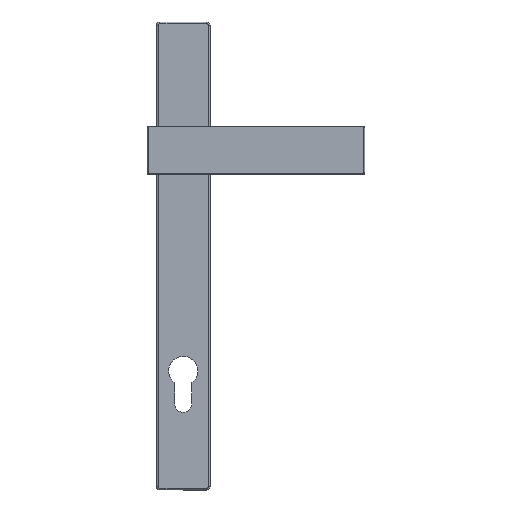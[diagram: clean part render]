
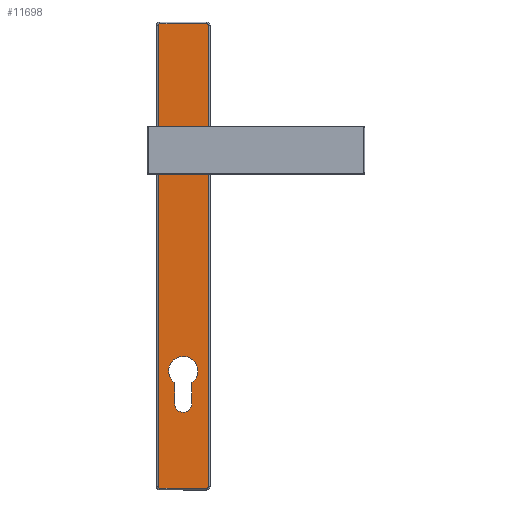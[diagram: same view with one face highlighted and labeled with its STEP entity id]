
A CAD part, top view. The second image highlights one B-rep face of the part: STEP entity #11698.
In plain terms, the highlighted planar face has unit normal (0, 0, 1).
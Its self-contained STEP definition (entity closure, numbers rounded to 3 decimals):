
#21 = CIRCLE ( 'NONE', #2082, 6.5 ) ;
#295 = CARTESIAN_POINT ( 'NONE',  ( -38.715, -62.527, 16.207 ) ) ;
#351 = ORIENTED_EDGE ( 'NONE', *, *, #825, .F. ) ;
#363 = CARTESIAN_POINT ( 'NONE',  ( -43.915, 76.448, 16.207 ) ) ;
#436 = EDGE_CURVE ( 'NONE', #11145, #5772, #3943, .T. ) ;
#681 = CARTESIAN_POINT ( 'NONE',  ( -57.915, 151.198, 16.207 ) ) ;
#722 = EDGE_CURVE ( 'NONE', #3169, #8039, #21, .T. ) ;
#819 = DIRECTION ( 'NONE',  ( 0., 0., 1. ) ) ;
#825 = EDGE_CURVE ( 'NONE', #5772, #4747, #7576, .T. ) ;
#924 = CIRCLE ( 'NONE', #5469, 1. ) ;
#1057 = VECTOR ( 'NONE', #2717, 1000. ) ;
#1070 = CARTESIAN_POINT ( 'NONE',  ( -29.915, 151.198, 16.207 ) ) ;
#1184 = AXIS2_PLACEMENT_3D ( 'NONE', #363, #9287, #8380 ) ;
#1210 = CARTESIAN_POINT ( 'NONE',  ( -38.715, -75.052, 16.207 ) ) ;
#1302 = EDGE_CURVE ( 'NONE', #4912, #11768, #8838, .T. ) ;
#1424 = EDGE_CURVE ( 'NONE', #11768, #12742, #3316, .T. ) ;
#1439 = CARTESIAN_POINT ( 'NONE',  ( -43.915, 76.448, 16.207 ) ) ;
#1511 = FACE_OUTER_BOUND ( 'NONE', #11063, .T. ) ;
#1634 = DIRECTION ( 'NONE',  ( 1., 0., 0. ) ) ;
#1673 = EDGE_CURVE ( 'NONE', #10037, #8231, #9657, .T. ) ;
#1700 = CIRCLE ( 'NONE', #4608, 5.2 ) ;
#1854 = VERTEX_POINT ( 'NONE', #6079 ) ;
#1859 = CARTESIAN_POINT ( 'NONE',  ( -58.915, -124.802, 16.207 ) ) ;
#2044 = CARTESIAN_POINT ( 'NONE',  ( -28.915, 151.198, 16.207 ) ) ;
#2082 = AXIS2_PLACEMENT_3D ( 'NONE', #1439, #5388, #6097 ) ;
#2139 = DIRECTION ( 'NONE',  ( 0., 0., 1. ) ) ;
#2153 = EDGE_CURVE ( 'NONE', #4747, #4912, #1700, .T. ) ;
#2350 = DIRECTION ( 'NONE',  ( 1., 0., 0. ) ) ;
#2581 = EDGE_CURVE ( 'NONE', #8039, #3169, #4622, .T. ) ;
#2586 = VERTEX_POINT ( 'NONE', #3263 ) ;
#2717 = DIRECTION ( 'NONE',  ( 0., -1., 0. ) ) ;
#2840 = DIRECTION ( 'NONE',  ( 1., 0., 0. ) ) ;
#2921 = DIRECTION ( 'NONE',  ( 1., 0., 0. ) ) ;
#2964 = CARTESIAN_POINT ( 'NONE',  ( -43.915, -55.552, 16.207 ) ) ;
#3030 = CARTESIAN_POINT ( 'NONE',  ( -58.915, 151.198, 16.207 ) ) ;
#3111 = VECTOR ( 'NONE', #1634, 1000. ) ;
#3149 = EDGE_CURVE ( 'NONE', #11415, #8419, #6023, .T. ) ;
#3169 = VERTEX_POINT ( 'NONE', #11840 ) ;
#3263 = CARTESIAN_POINT ( 'NONE',  ( -58.915, -124.802, 16.207 ) ) ;
#3316 = CIRCLE ( 'NONE', #4150, 8.7 ) ;
#3386 = DIRECTION ( 'NONE',  ( 1., 0., 0. ) ) ;
#3471 = CARTESIAN_POINT ( 'NONE',  ( -49.115, -75.052, 16.207 ) ) ;
#3943 = CIRCLE ( 'NONE', #7453, 8.7 ) ;
#4042 = DIRECTION ( 'NONE',  ( 1., 0., 0. ) ) ;
#4150 = AXIS2_PLACEMENT_3D ( 'NONE', #11291, #12259, #3386 ) ;
#4311 = PLANE ( 'NONE',  #1184 ) ;
#4346 = ORIENTED_EDGE ( 'NONE', *, *, #2581, .F. ) ;
#4608 = AXIS2_PLACEMENT_3D ( 'NONE', #9110, #9953, #12018 ) ;
#4622 = CIRCLE ( 'NONE', #11846, 6.5 ) ;
#4653 = LINE ( 'NONE', #1859, #5666 ) ;
#4747 = VERTEX_POINT ( 'NONE', #3471 ) ;
#4782 = LINE ( 'NONE', #5675, #9802 ) ;
#4835 = CARTESIAN_POINT ( 'NONE',  ( -29.915, 152.198, 16.207 ) ) ;
#4889 = DIRECTION ( 'NONE',  ( 0., 1., 0. ) ) ;
#4912 = VERTEX_POINT ( 'NONE', #1210 ) ;
#4919 = VERTEX_POINT ( 'NONE', #2044 ) ;
#5022 = DIRECTION ( 'NONE',  ( 0., 0., 1. ) ) ;
#5142 = CIRCLE ( 'NONE', #11943, 8.7 ) ;
#5197 = EDGE_CURVE ( 'NONE', #8419, #5488, #5911, .T. ) ;
#5274 = FACE_BOUND ( 'NONE', #5511, .T. ) ;
#5292 = CIRCLE ( 'NONE', #9002, 1. ) ;
#5388 = DIRECTION ( 'NONE',  ( 0., 0., 1. ) ) ;
#5469 = AXIS2_PLACEMENT_3D ( 'NONE', #11788, #2139, #2921 ) ;
#5488 = VERTEX_POINT ( 'NONE', #3030 ) ;
#5507 = CARTESIAN_POINT ( 'NONE',  ( -49.115, -75.052, 16.207 ) ) ;
#5511 = EDGE_LOOP ( 'NONE', ( #12305, #10100, #6916, #351, #9424, #11625 ) ) ;
#5612 = CARTESIAN_POINT ( 'NONE',  ( -49.115, -62.527, 16.207 ) ) ;
#5622 = ORIENTED_EDGE ( 'NONE', *, *, #1673, .T. ) ;
#5666 = VECTOR ( 'NONE', #9811, 1000. ) ;
#5675 = CARTESIAN_POINT ( 'NONE',  ( -28.915, 151.198, 16.207 ) ) ;
#5684 = ORIENTED_EDGE ( 'NONE', *, *, #9889, .T. ) ;
#5772 = VERTEX_POINT ( 'NONE', #5612 ) ;
#5773 = CARTESIAN_POINT ( 'NONE',  ( -57.915, 152.198, 16.207 ) ) ;
#5911 = CIRCLE ( 'NONE', #12748, 1. ) ;
#6023 = LINE ( 'NONE', #5773, #6482 ) ;
#6079 = CARTESIAN_POINT ( 'NONE',  ( -28.915, -124.802, 16.207 ) ) ;
#6097 = DIRECTION ( 'NONE',  ( 1., 0., 0. ) ) ;
#6305 = DIRECTION ( 'NONE',  ( 0., 0., 1. ) ) ;
#6456 = CARTESIAN_POINT ( 'NONE',  ( -57.915, 152.198, 16.207 ) ) ;
#6482 = VECTOR ( 'NONE', #7904, 1000. ) ;
#6730 = ORIENTED_EDGE ( 'NONE', *, *, #8857, .T. ) ;
#6910 = EDGE_CURVE ( 'NONE', #2586, #10037, #924, .T. ) ;
#6916 = ORIENTED_EDGE ( 'NONE', *, *, #2153, .F. ) ;
#7067 = ORIENTED_EDGE ( 'NONE', *, *, #722, .F. ) ;
#7107 = AXIS2_PLACEMENT_3D ( 'NONE', #1070, #5022, #4042 ) ;
#7120 = EDGE_CURVE ( 'NONE', #1854, #4919, #4782, .T. ) ;
#7152 = DIRECTION ( 'NONE',  ( 0., 0., 1. ) ) ;
#7332 = ORIENTED_EDGE ( 'NONE', *, *, #10253, .T. ) ;
#7340 = CARTESIAN_POINT ( 'NONE',  ( -43.915, -55.552, 16.207 ) ) ;
#7451 = ORIENTED_EDGE ( 'NONE', *, *, #5197, .T. ) ;
#7453 = AXIS2_PLACEMENT_3D ( 'NONE', #7340, #6305, #2350 ) ;
#7527 = ORIENTED_EDGE ( 'NONE', *, *, #6910, .T. ) ;
#7576 = LINE ( 'NONE', #5507, #1057 ) ;
#7771 = DIRECTION ( 'NONE',  ( 0., 0., 1. ) ) ;
#7864 = VECTOR ( 'NONE', #4889, 1000. ) ;
#7904 = DIRECTION ( 'NONE',  ( -1., 0., 0. ) ) ;
#7926 = CIRCLE ( 'NONE', #7107, 1. ) ;
#8039 = VERTEX_POINT ( 'NONE', #9703 ) ;
#8046 = DIRECTION ( 'NONE',  ( 1., 0., 0. ) ) ;
#8070 = EDGE_CURVE ( 'NONE', #12742, #11145, #5142, .T. ) ;
#8203 = CARTESIAN_POINT ( 'NONE',  ( -57.915, -125.802, 16.207 ) ) ;
#8231 = VERTEX_POINT ( 'NONE', #10021 ) ;
#8321 = FACE_BOUND ( 'NONE', #12387, .T. ) ;
#8380 = DIRECTION ( 'NONE',  ( 1., 0., 0. ) ) ;
#8419 = VERTEX_POINT ( 'NONE', #6456 ) ;
#8575 = DIRECTION ( 'NONE',  ( 0., 0., 1. ) ) ;
#8838 = LINE ( 'NONE', #10840, #7864 ) ;
#8857 = EDGE_CURVE ( 'NONE', #4919, #11415, #7926, .T. ) ;
#9002 = AXIS2_PLACEMENT_3D ( 'NONE', #9676, #819, #8046 ) ;
#9110 = CARTESIAN_POINT ( 'NONE',  ( -43.915, -75.052, 16.207 ) ) ;
#9287 = DIRECTION ( 'NONE',  ( 0., 0., 1. ) ) ;
#9424 = ORIENTED_EDGE ( 'NONE', *, *, #436, .F. ) ;
#9657 = LINE ( 'NONE', #10499, #3111 ) ;
#9676 = CARTESIAN_POINT ( 'NONE',  ( -29.915, -124.802, 16.207 ) ) ;
#9703 = CARTESIAN_POINT ( 'NONE',  ( -50.415, 76.448, 16.207 ) ) ;
#9802 = VECTOR ( 'NONE', #11879, 1000. ) ;
#9811 = DIRECTION ( 'NONE',  ( 0., -1., 0. ) ) ;
#9889 = EDGE_CURVE ( 'NONE', #5488, #2586, #4653, .T. ) ;
#9939 = CARTESIAN_POINT ( 'NONE',  ( -35.215, -55.552, 16.207 ) ) ;
#9952 = CARTESIAN_POINT ( 'NONE',  ( -52.615, -55.552, 16.207 ) ) ;
#9953 = DIRECTION ( 'NONE',  ( 0., 0., 1. ) ) ;
#9960 = ORIENTED_EDGE ( 'NONE', *, *, #3149, .T. ) ;
#10021 = CARTESIAN_POINT ( 'NONE',  ( -29.915, -125.802, 16.207 ) ) ;
#10037 = VERTEX_POINT ( 'NONE', #8203 ) ;
#10100 = ORIENTED_EDGE ( 'NONE', *, *, #1302, .F. ) ;
#10105 = ORIENTED_EDGE ( 'NONE', *, *, #7120, .T. ) ;
#10190 = DIRECTION ( 'NONE',  ( 1., 0., 0. ) ) ;
#10253 = EDGE_CURVE ( 'NONE', #8231, #1854, #5292, .T. ) ;
#10499 = CARTESIAN_POINT ( 'NONE',  ( -29.915, -125.802, 16.207 ) ) ;
#10840 = CARTESIAN_POINT ( 'NONE',  ( -38.715, -75.052, 16.207 ) ) ;
#11063 = EDGE_LOOP ( 'NONE', ( #9960, #7451, #5684, #7527, #5622, #7332, #10105, #6730 ) ) ;
#11145 = VERTEX_POINT ( 'NONE', #9952 ) ;
#11171 = CARTESIAN_POINT ( 'NONE',  ( -43.915, 76.448, 16.207 ) ) ;
#11291 = CARTESIAN_POINT ( 'NONE',  ( -43.915, -55.552, 16.207 ) ) ;
#11415 = VERTEX_POINT ( 'NONE', #4835 ) ;
#11625 = ORIENTED_EDGE ( 'NONE', *, *, #8070, .F. ) ;
#11698 = ADVANCED_FACE ( 'NONE', ( #1511, #8321, #5274 ), #4311, .T. ) ;
#11768 = VERTEX_POINT ( 'NONE', #295 ) ;
#11788 = CARTESIAN_POINT ( 'NONE',  ( -57.915, -124.802, 16.207 ) ) ;
#11840 = CARTESIAN_POINT ( 'NONE',  ( -37.415, 76.448, 16.207 ) ) ;
#11846 = AXIS2_PLACEMENT_3D ( 'NONE', #11171, #7152, #10190 ) ;
#11879 = DIRECTION ( 'NONE',  ( 0., 1., 0. ) ) ;
#11943 = AXIS2_PLACEMENT_3D ( 'NONE', #2964, #7771, #2840 ) ;
#12018 = DIRECTION ( 'NONE',  ( 1., 0., 0. ) ) ;
#12259 = DIRECTION ( 'NONE',  ( 0., 0., 1. ) ) ;
#12305 = ORIENTED_EDGE ( 'NONE', *, *, #1424, .F. ) ;
#12387 = EDGE_LOOP ( 'NONE', ( #7067, #4346 ) ) ;
#12508 = DIRECTION ( 'NONE',  ( 1., 0., 0. ) ) ;
#12742 = VERTEX_POINT ( 'NONE', #9939 ) ;
#12748 = AXIS2_PLACEMENT_3D ( 'NONE', #681, #8575, #12508 ) ;
